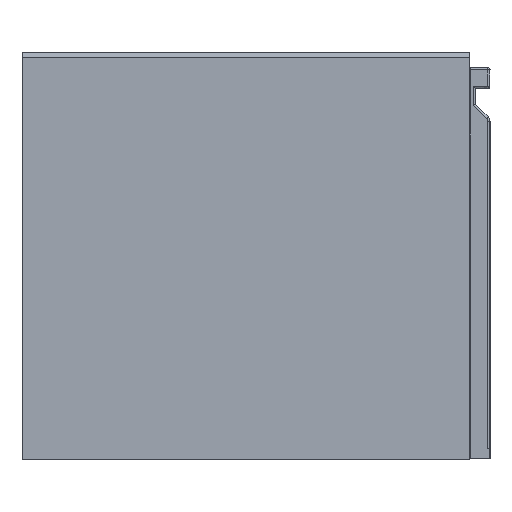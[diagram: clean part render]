
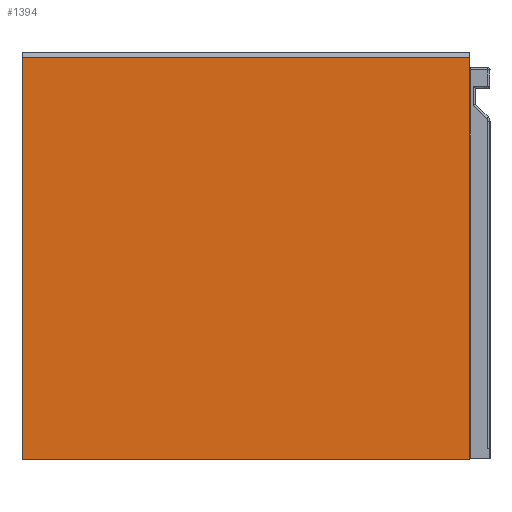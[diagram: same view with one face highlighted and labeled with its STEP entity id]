
A CAD part, left-side view. The second image highlights one B-rep face of the part: STEP entity #1394.
In plain terms, the highlighted planar face has unit normal (-1, 0, 0).
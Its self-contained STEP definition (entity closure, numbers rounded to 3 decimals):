
#1394=ADVANCED_FACE('',(#2253),#14521,.T.);
#2253=FACE_OUTER_BOUND('',#3112,.T.);
#3112=EDGE_LOOP('',(#4082,#4083,#4084,#4085));
#4082=ORIENTED_EDGE('',*,*,#8791,.F.);
#4083=ORIENTED_EDGE('',*,*,#8792,.T.);
#4084=ORIENTED_EDGE('',*,*,#8793,.T.);
#4085=ORIENTED_EDGE('',*,*,#8794,.T.);
#8791=EDGE_CURVE('',#12933,#12930,#11146,.T.);
#8792=EDGE_CURVE('',#12933,#12934,#11147,.T.);
#8793=EDGE_CURVE('',#12934,#12935,#11148,.T.);
#8794=EDGE_CURVE('',#12935,#12930,#11149,.T.);
#11146=B_SPLINE_CURVE_WITH_KNOTS('',1,(#17186,#17187),.UNSPECIFIED.,.F.,
 .F.,(2,2),(0.,430.),.UNSPECIFIED.);
#11147=B_SPLINE_CURVE_WITH_KNOTS('',1,(#17188,#17189),.UNSPECIFIED.,.F.,
 .F.,(2,2),(-387.,0.),.UNSPECIFIED.);
#11148=B_SPLINE_CURVE_WITH_KNOTS('',1,(#17190,#17191),.UNSPECIFIED.,.F.,
 .F.,(2,2),(-430.,0.),.UNSPECIFIED.);
#11149=B_SPLINE_CURVE_WITH_KNOTS('',1,(#17192,#17193),.UNSPECIFIED.,.F.,
 .F.,(2,2),(0.,387.),.UNSPECIFIED.);
#12930=VERTEX_POINT('',#17170);
#12933=VERTEX_POINT('',#17173);
#12934=VERTEX_POINT('',#17174);
#12935=VERTEX_POINT('',#17175);
#14521=PLANE('',#15694);
#15694=AXIS2_PLACEMENT_3D('',#17164,#16390,$);
#16390=DIRECTION('',(-1.,0.,0.));
#17164=CARTESIAN_POINT('',(-7839.826,-10876.937,-1904.111));
#17170=CARTESIAN_POINT('',(-7839.826,-10833.817,-1478.291));
#17173=CARTESIAN_POINT('',(-7839.826,-10403.817,-1478.291));
#17174=CARTESIAN_POINT('',(-7839.826,-10403.817,-1865.291));
#17175=CARTESIAN_POINT('',(-7839.826,-10833.817,-1865.291));
#17186=CARTESIAN_POINT('',(-7839.826,-10403.817,-1478.291));
#17187=CARTESIAN_POINT('',(-7839.826,-10833.817,-1478.291));
#17188=CARTESIAN_POINT('',(-7839.826,-10403.817,-1478.291));
#17189=CARTESIAN_POINT('',(-7839.826,-10403.817,-1865.291));
#17190=CARTESIAN_POINT('',(-7839.826,-10403.817,-1865.291));
#17191=CARTESIAN_POINT('',(-7839.826,-10833.817,-1865.291));
#17192=CARTESIAN_POINT('',(-7839.826,-10833.817,-1865.291));
#17193=CARTESIAN_POINT('',(-7839.826,-10833.817,-1478.291));
